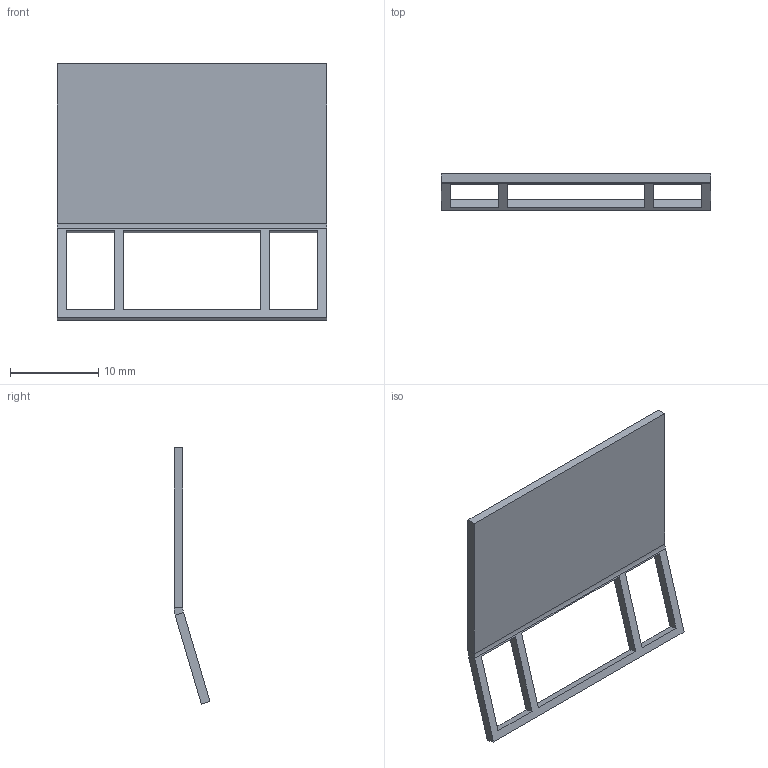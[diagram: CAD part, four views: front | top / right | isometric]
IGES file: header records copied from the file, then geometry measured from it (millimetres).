
Start section:  PTC IGES file: c:\works\pro\DV12\hytinsivu.igs
Global section: file name: c:\works\pro\DV12\hytinsivu.igs; native system: Pro/ENGINEER by Parametric Technology Corporation; preprocessor: 2001150; author: telimaa; organization: Unknown; date: 041205.165027; units: millimetre
Bounding box: 30.5 x 4.07 x 29.01 mm (x, y, z)
Surface area: 1519.4 mm2 (no closed solid volume)
Topology: 0 solids, 0 shells, 26 faces, 128 edges, 128 vertices
Faces by surface type: bspline 24, revolution 2
